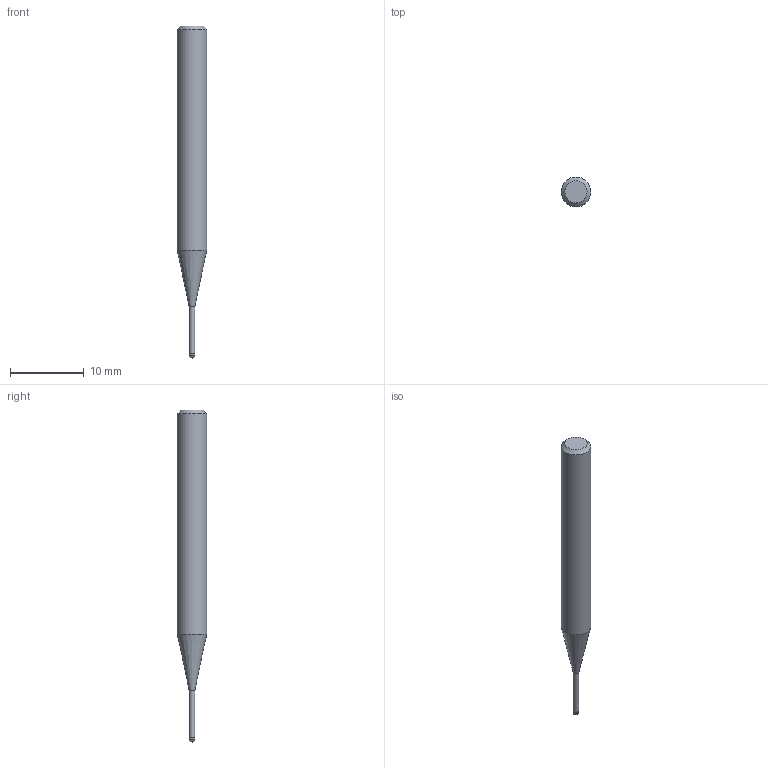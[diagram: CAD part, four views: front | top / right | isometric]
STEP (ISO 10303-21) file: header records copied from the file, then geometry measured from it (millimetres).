
FILE_DESCRIPTION((''),'2;1');
FILE_NAME('C:\Users\nsx150\AppData\Local\Temp\Mastercam 2021\ARV7HD45SN\TEMP.step','2023-06-13T16:34:54',(''),(''),'STEP Write','Mastercam 2021 ... CNC Software, Inc.','');
FILE_SCHEMA(('AUTOMOTIVE_DESIGN'));
Length unit declared in the file: millimetre
Products named in the file (1): None
Bounding box: 4 x 4 x 45 mm (x, y, z)
Volume: 422.6 mm3; surface area: 466.3 mm2
Topology: 2 solids, 2 shells, 9 faces, 14 edges, 8 vertices
Faces by surface type: plane 3, cylinder 3, cone 2, sphere 1
Full cylindrical faces by diameter (mm): 0.76 x1, 0.8 x1, 4 x1
Entity records: 211 total; most frequent: DIRECTION 36, CARTESIAN_POINT 25, AXIS2_PLACEMENT_3D 18, ORIENTED_EDGE 14, EDGE_LOOP 14, STYLED_ITEM 12, ADVANCED_FACE 9, FACE_BOUND 8
